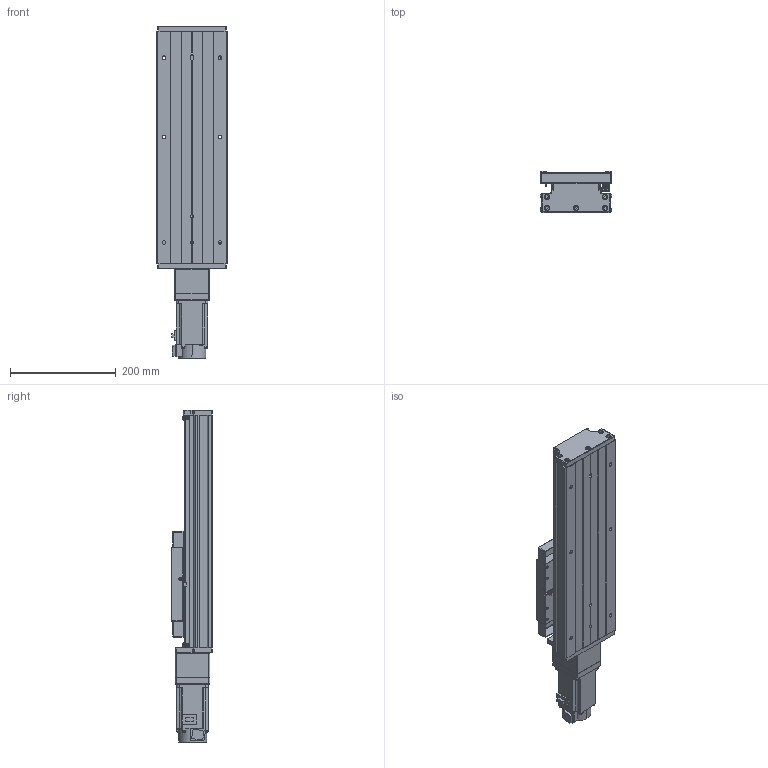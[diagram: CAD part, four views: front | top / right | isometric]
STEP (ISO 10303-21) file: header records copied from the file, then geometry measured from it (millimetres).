
FILE_DESCRIPTION (( 'STEP AP203' ), '1' );
FILE_NAME ('GTH14-200-BC-M40-C4.step', '2023-06-30T08:33:08', ( '微软用户' ), ( '微软中国' ), 'SwSTEP 2.0', 'SolidWorks 2020', '' );
FILE_SCHEMA (( 'CONFIG_CONTROL_DESIGN' ));
Length unit declared in the file: millimetre
Products named in the file (20): CTHA60-017; CTHA86-006-1_M40; GTH14-002_GTH14-002; EE_SX911P_R; CTHA86-013; GTH14-004; CTHA60-016; CTHA86-027-1; GTH14-005; GBT 70.1-M3℅5; HG-KN43J-S100; GB1155-6X6; GBT77-2000 M3×3; GBT 70.3-M3℅8; GBT70.1 M5℅16; GTH14-031; GTH14-200-BC-M40-C4; GBT 70.2-M3¡Á5_M3¡Á6; す晦芛蹟隊 M3℅5; GTH14-001_200
Assembly tree (57 placements, depth 2):
  GTH14-200-BC-M40-C4
    GTH14-001_200
    GTH14-002_GTH14-002
    GTH14-004
    GTH14-005
    GB1155-6X6  x2
    GBT70.1 M5℅16  x10
    GBT 70.2-M3¡Á5_M3¡Á6  x8
    CTHA60-017  x3
    EE_SX911P_R  x3
    CTHA60-016  x2
    GBT 70.1-M3℅5  x6
    GBT77-2000 M3×3  x6
    GTH14-031
    す晦芛蹟隊 M3℅5  x6
    CTHA86-006-1_M40
    CTHA86-013
    CTHA86-027-1
    HG-KN43J-S100
    GBT 70.3-M3℅8  x2
Bounding box: 135 x 78 x 628.7 mm (x, y, z)
Volume: 3210565.1 mm3; surface area: 556646.5 mm2
Topology: 60 solids, 60 shells, 2394 faces, 5709 edges, 3522 vertices
Faces by surface type: plane 1298, cylinder 632, cone 304, torus 120, sphere 20, bspline 20
Entity records: 43804 total; most frequent: CARTESIAN_POINT 9797, DIRECTION 6396, ORIENTED_EDGE 6302, EDGE_CURVE 3151, AXIS2_PLACEMENT_3D 2165, LINE 2066, VECTOR 2066, VERTEX_POINT 1990
